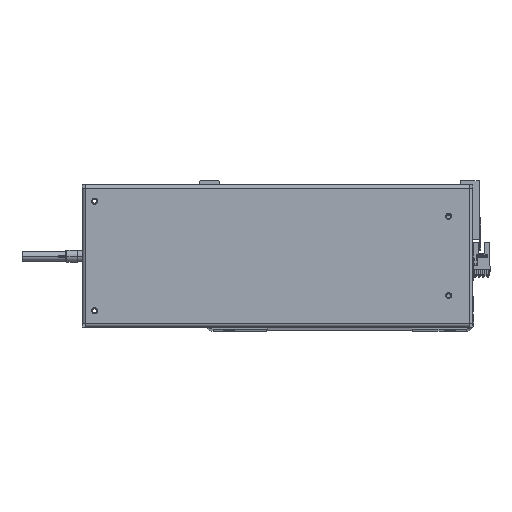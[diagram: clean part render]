
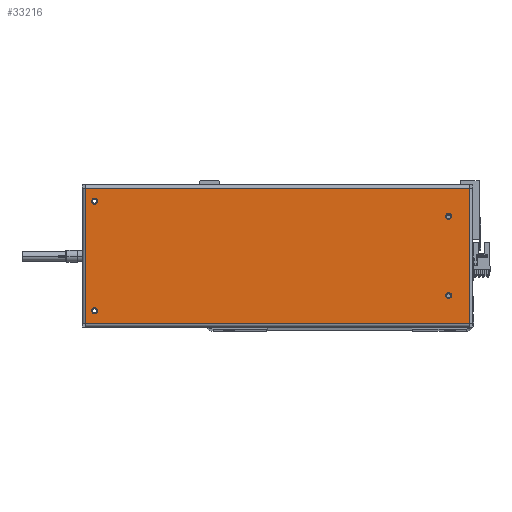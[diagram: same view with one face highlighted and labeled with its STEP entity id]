
A CAD part, top view. The second image highlights one B-rep face of the part: STEP entity #33216.
In plain terms, the highlighted planar face has unit normal (0, 0, 1).
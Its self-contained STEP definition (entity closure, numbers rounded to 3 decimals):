
#145 = FACE_BOUND ( 'NONE', #8182, .T. ) ;
#362 = EDGE_CURVE ( 'NONE', #21583, #31385, #26004, .T. ) ;
#702 = EDGE_LOOP ( 'NONE', ( #15996, #13580 ) ) ;
#714 = VERTEX_POINT ( 'NONE', #36990 ) ;
#878 = CARTESIAN_POINT ( 'NONE',  ( -143., 32.5, 0. ) ) ;
#958 = CARTESIAN_POINT ( 'NONE',  ( -140.5, -32.5, 0. ) ) ;
#1024 = CIRCLE ( 'NONE', #38590, 2.5 ) ;
#2146 = ORIENTED_EDGE ( 'NONE', *, *, #12353, .F. ) ;
#2147 = VERTEX_POINT ( 'NONE', #36082 ) ;
#2502 = FACE_OUTER_BOUND ( 'NONE', #23140, .T. ) ;
#2570 = ORIENTED_EDGE ( 'NONE', *, *, #26931, .T. ) ;
#2605 = CIRCLE ( 'NONE', #9941, 2.5 ) ;
#2890 = CARTESIAN_POINT ( 'NONE',  ( -140.5, -32.5, 0. ) ) ;
#3024 = CARTESIAN_POINT ( 'NONE',  ( 153., 45., 0. ) ) ;
#3442 = LINE ( 'NONE', #12391, #25964 ) ;
#4066 = VERTEX_POINT ( 'NONE', #17584 ) ;
#5330 = DIRECTION ( 'NONE',  ( 0., 0., 1. ) ) ;
#6203 = EDGE_CURVE ( 'NONE', #19256, #4066, #15706, .T. ) ;
#6866 = VERTEX_POINT ( 'NONE', #21845 ) ;
#7014 = CARTESIAN_POINT ( 'NONE',  ( 150.5, -45., 0. ) ) ;
#7217 = PLANE ( 'NONE',  #22634 ) ;
#7519 = EDGE_CURVE ( 'NONE', #30107, #21583, #31441, .T. ) ;
#8182 = EDGE_LOOP ( 'NONE', ( #37636, #2146 ) ) ;
#8259 = CARTESIAN_POINT ( 'NONE',  ( 150.5, -45., 0. ) ) ;
#9613 = CARTESIAN_POINT ( 'NONE',  ( -157.6, 55.6, 0. ) ) ;
#9824 = DIRECTION ( 'NONE',  ( 0., 0., 1. ) ) ;
#9941 = AXIS2_PLACEMENT_3D ( 'NONE', #7014, #9824, #31249 ) ;
#9969 = CARTESIAN_POINT ( 'NONE',  ( -157.6, -55.6, 0. ) ) ;
#10197 = FACE_BOUND ( 'NONE', #702, .T. ) ;
#10438 = VERTEX_POINT ( 'NONE', #3024 ) ;
#10667 = FACE_BOUND ( 'NONE', #37564, .T. ) ;
#11823 = EDGE_CURVE ( 'NONE', #31385, #2147, #3442, .T. ) ;
#12353 = EDGE_CURVE ( 'NONE', #16488, #18325, #1024, .T. ) ;
#12391 = CARTESIAN_POINT ( 'NONE',  ( 157.6, -55.6, 0. ) ) ;
#13289 = DIRECTION ( 'NONE',  ( 1., 0., 0. ) ) ;
#13325 = CIRCLE ( 'NONE', #20647, 2.5 ) ;
#13532 = FACE_BOUND ( 'NONE', #27448, .T. ) ;
#13580 = ORIENTED_EDGE ( 'NONE', *, *, #16531, .F. ) ;
#14624 = VECTOR ( 'NONE', #28156, 1000. ) ;
#14844 = DIRECTION ( 'NONE',  ( 1., 0., 0. ) ) ;
#15070 = ORIENTED_EDGE ( 'NONE', *, *, #35004, .F. ) ;
#15359 = CARTESIAN_POINT ( 'NONE',  ( -157.6, 55.6, 0. ) ) ;
#15482 = DIRECTION ( 'NONE',  ( 0., -1., 0. ) ) ;
#15706 = CIRCLE ( 'NONE', #17304, 2.5 ) ;
#15996 = ORIENTED_EDGE ( 'NONE', *, *, #39094, .F. ) ;
#16488 = VERTEX_POINT ( 'NONE', #38633 ) ;
#16531 = EDGE_CURVE ( 'NONE', #34156, #6866, #17714, .T. ) ;
#16788 = EDGE_CURVE ( 'NONE', #18325, #16488, #35464, .T. ) ;
#17237 = CARTESIAN_POINT ( 'NONE',  ( 157.6, -55.6, 0. ) ) ;
#17304 = AXIS2_PLACEMENT_3D ( 'NONE', #8259, #35889, #21490 ) ;
#17584 = CARTESIAN_POINT ( 'NONE',  ( 153., -45., 0. ) ) ;
#17714 = CIRCLE ( 'NONE', #23540, 2.5 ) ;
#17999 = LINE ( 'NONE', #28027, #14624 ) ;
#18325 = VERTEX_POINT ( 'NONE', #33693 ) ;
#18947 = DIRECTION ( 'NONE',  ( 0., 1., 0. ) ) ;
#19256 = VERTEX_POINT ( 'NONE', #26220 ) ;
#19744 = DIRECTION ( 'NONE',  ( 1., 0., 0. ) ) ;
#20647 = AXIS2_PLACEMENT_3D ( 'NONE', #26032, #22542, #22665 ) ;
#20707 = ORIENTED_EDGE ( 'NONE', *, *, #6203, .F. ) ;
#20918 = ORIENTED_EDGE ( 'NONE', *, *, #37092, .F. ) ;
#21063 = DIRECTION ( 'NONE',  ( 1., 0., 0. ) ) ;
#21490 = DIRECTION ( 'NONE',  ( 1., 0., 0. ) ) ;
#21583 = VERTEX_POINT ( 'NONE', #9969 ) ;
#21845 = CARTESIAN_POINT ( 'NONE',  ( -138., 32.5, 0. ) ) ;
#22224 = AXIS2_PLACEMENT_3D ( 'NONE', #2890, #36927, #33975 ) ;
#22326 = CIRCLE ( 'NONE', #31705, 2.5 ) ;
#22378 = DIRECTION ( 'NONE',  ( 0., 0., 1. ) ) ;
#22542 = DIRECTION ( 'NONE',  ( 0., 0., 1. ) ) ;
#22578 = CARTESIAN_POINT ( 'NONE',  ( 157.7, 58.5, 0. ) ) ;
#22634 = AXIS2_PLACEMENT_3D ( 'NONE', #22578, #31609, #37398 ) ;
#22665 = DIRECTION ( 'NONE',  ( 1., 0., 0. ) ) ;
#23140 = EDGE_LOOP ( 'NONE', ( #39667, #27951, #32246, #2570 ) ) ;
#23284 = VECTOR ( 'NONE', #15482, 1000. ) ;
#23540 = AXIS2_PLACEMENT_3D ( 'NONE', #28567, #31646, #13289 ) ;
#23968 = CARTESIAN_POINT ( 'NONE',  ( 150.5, 45., 0. ) ) ;
#25964 = VECTOR ( 'NONE', #18947, 1000. ) ;
#26004 = LINE ( 'NONE', #38281, #38024 ) ;
#26032 = CARTESIAN_POINT ( 'NONE',  ( 150.5, 45., 0. ) ) ;
#26220 = CARTESIAN_POINT ( 'NONE',  ( 148., -45., 0. ) ) ;
#26554 = EDGE_CURVE ( 'NONE', #10438, #714, #22326, .T. ) ;
#26931 = EDGE_CURVE ( 'NONE', #2147, #30107, #17999, .T. ) ;
#27448 = EDGE_LOOP ( 'NONE', ( #20918, #20707 ) ) ;
#27951 = ORIENTED_EDGE ( 'NONE', *, *, #362, .T. ) ;
#28027 = CARTESIAN_POINT ( 'NONE',  ( 157.7, 55.6, 0. ) ) ;
#28156 = DIRECTION ( 'NONE',  ( -1., 0., 0. ) ) ;
#28560 = DIRECTION ( 'NONE',  ( 1., 0., 0. ) ) ;
#28567 = CARTESIAN_POINT ( 'NONE',  ( -140.5, 32.5, 0. ) ) ;
#29995 = AXIS2_PLACEMENT_3D ( 'NONE', #39432, #39585, #21063 ) ;
#30107 = VERTEX_POINT ( 'NONE', #9613 ) ;
#31249 = DIRECTION ( 'NONE',  ( 1., 0., 0. ) ) ;
#31385 = VERTEX_POINT ( 'NONE', #17237 ) ;
#31441 = LINE ( 'NONE', #15359, #23284 ) ;
#31609 = DIRECTION ( 'NONE',  ( 0., 0., -1. ) ) ;
#31646 = DIRECTION ( 'NONE',  ( 0., 0., 1. ) ) ;
#31705 = AXIS2_PLACEMENT_3D ( 'NONE', #23968, #5330, #14844 ) ;
#32195 = CIRCLE ( 'NONE', #29995, 2.5 ) ;
#32246 = ORIENTED_EDGE ( 'NONE', *, *, #11823, .T. ) ;
#33216 = ADVANCED_FACE ( 'NONE', ( #145, #10197, #13532, #10667, #2502 ), #7217, .F. ) ;
#33693 = CARTESIAN_POINT ( 'NONE',  ( -138., -32.5, 0. ) ) ;
#33975 = DIRECTION ( 'NONE',  ( 1., 0., 0. ) ) ;
#34156 = VERTEX_POINT ( 'NONE', #878 ) ;
#35004 = EDGE_CURVE ( 'NONE', #714, #10438, #13325, .T. ) ;
#35464 = CIRCLE ( 'NONE', #22224, 2.5 ) ;
#35889 = DIRECTION ( 'NONE',  ( 0., 0., 1. ) ) ;
#36082 = CARTESIAN_POINT ( 'NONE',  ( 157.6, 55.6, 0. ) ) ;
#36826 = ORIENTED_EDGE ( 'NONE', *, *, #26554, .F. ) ;
#36927 = DIRECTION ( 'NONE',  ( 0., 0., 1. ) ) ;
#36990 = CARTESIAN_POINT ( 'NONE',  ( 148., 45., 0. ) ) ;
#37092 = EDGE_CURVE ( 'NONE', #4066, #19256, #2605, .T. ) ;
#37398 = DIRECTION ( 'NONE',  ( -1., 0., 0. ) ) ;
#37564 = EDGE_LOOP ( 'NONE', ( #36826, #15070 ) ) ;
#37636 = ORIENTED_EDGE ( 'NONE', *, *, #16788, .F. ) ;
#38024 = VECTOR ( 'NONE', #19744, 1000. ) ;
#38281 = CARTESIAN_POINT ( 'NONE',  ( -157.7, -55.6, 0. ) ) ;
#38590 = AXIS2_PLACEMENT_3D ( 'NONE', #958, #22378, #28560 ) ;
#38633 = CARTESIAN_POINT ( 'NONE',  ( -143., -32.5, 0. ) ) ;
#39094 = EDGE_CURVE ( 'NONE', #6866, #34156, #32195, .T. ) ;
#39432 = CARTESIAN_POINT ( 'NONE',  ( -140.5, 32.5, 0. ) ) ;
#39585 = DIRECTION ( 'NONE',  ( 0., 0., 1. ) ) ;
#39667 = ORIENTED_EDGE ( 'NONE', *, *, #7519, .T. ) ;
